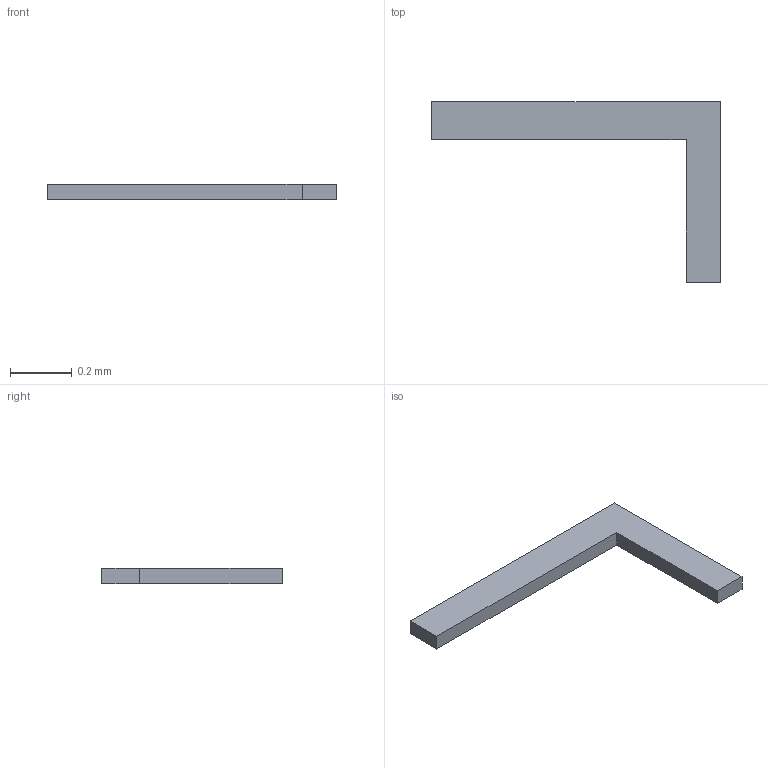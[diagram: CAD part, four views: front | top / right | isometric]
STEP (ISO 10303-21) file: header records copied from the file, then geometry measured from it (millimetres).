
FILE_DESCRIPTION(/* description */ ('STEP AP242 Edition 2','CAx-IF Rec.Pracs.---Representation and Presentation of Product Manufacturing Information (PMI)---4.0---2014-10-13','CAx-IF Rec.Pracs.---3D Tessellated Geometry---0.4---2014-09-14','2;1','CAx-IF Rec.Pracs.---User Defined Attributes---1.5---2016-08-15'),/* implementation_level */ '2;1');
FILE_NAME(/* name */ 'Drone Layout - Surface 309',/* time_stamp */ '2026-10-04T22:22:55Z',/* author */ (''),/* organization */ (''),/* preprocessor_version */ 'ST-DEVELOPER v20',/* originating_system */ 'ONSHAPE BY PTC INC, 1.221',/* authorisation */ ' ');
FILE_SCHEMA (('AP242_MANAGED_MODEL_BASED_3D_ENGINEERING_MIM_LF { 1 0 10303 442 3 1 4 }'));
Length unit declared in the file: metre
Products named in the file (1): Text_XCL
Bounding box: 0.93 x 0.58 x 0.05 mm (x, y, z)
Volume: 0 mm3; surface area: 0.5 mm2
Topology: 1 solids, 1 shells, 8 faces, 18 edges, 12 vertices
Faces by surface type: plane 8
Entity records: 235 total; most frequent: CARTESIAN_POINT 39, ORIENTED_EDGE 36, DIRECTION 36, EDGE_CURVE 18, LINE 18, VECTOR 18, VERTEX_POINT 12, AXIS2_PLACEMENT_3D 9
